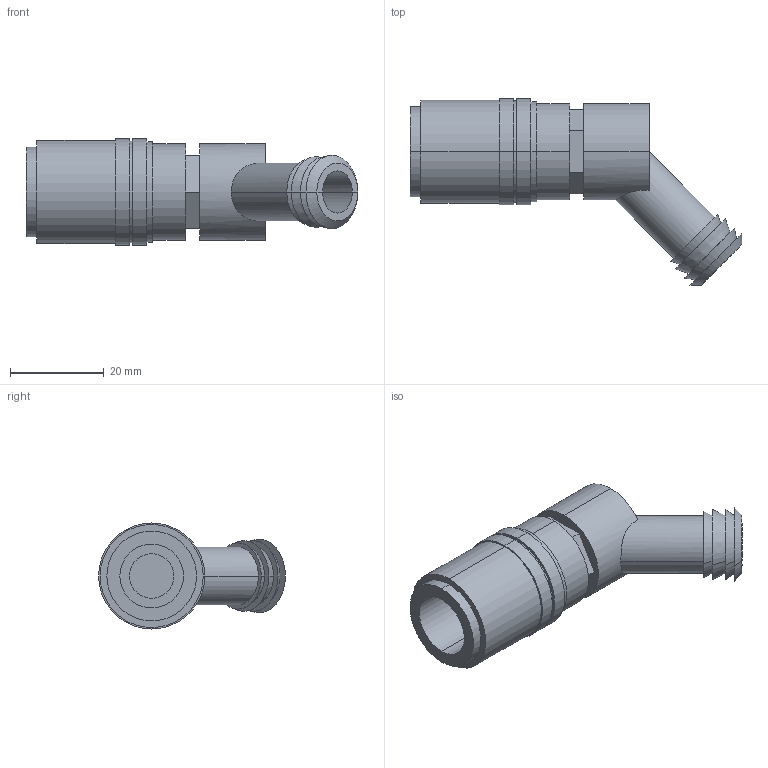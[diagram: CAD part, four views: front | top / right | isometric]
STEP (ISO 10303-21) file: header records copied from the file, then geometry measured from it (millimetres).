
FILE_DESCRIPTION (( 'STEP AP214' ), '1' );
FILE_NAME ('BR803-11-45.STEP', '2020-06-23T08:53:57', ( '' ), ( '' ), 'SwSTEP 2.0', 'SolidWorks 2018', '' );
FILE_SCHEMA (( 'AUTOMOTIVE_DESIGN' ));
Length unit declared in the file: millimetre
Products named in the file (1): BR803-11-45
Bounding box: 70.77 x 39.84 x 22.64 mm (x, y, z)
Volume: 14221.4 mm3; surface area: 8000.6 mm2
Topology: 1 solids, 1 shells, 58 faces, 122 edges, 80 vertices
Faces by surface type: cylinder 25, plane 23, cone 10
Entity records: 1686 total; most frequent: CARTESIAN_POINT 357, DIRECTION 294, ORIENTED_EDGE 244, EDGE_CURVE 122, AXIS2_PLACEMENT_3D 121, VERTEX_POINT 80, EDGE_LOOP 72, CIRCLE 62
